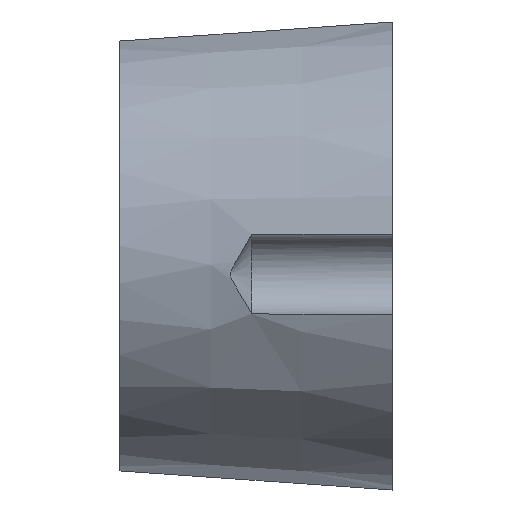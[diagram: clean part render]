
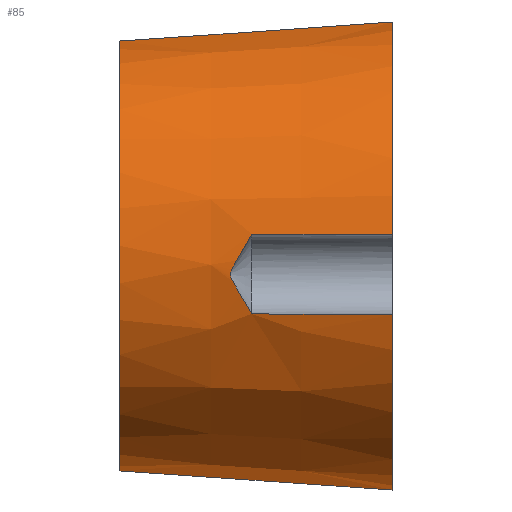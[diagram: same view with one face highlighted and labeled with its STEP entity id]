
A CAD part, top view. The second image highlights one B-rep face of the part: STEP entity #85.
In plain terms, the highlighted conical face has half-angle 4 degrees and reference radius 17.641 mm.
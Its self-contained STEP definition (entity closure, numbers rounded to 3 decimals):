
#85 = ADVANCED_FACE( '', ( #112 ), #113, .T. );
#112 = FACE_OUTER_BOUND( '', #144, .T. );
#113 = CONICAL_SURFACE( '', #145, 17.641, 0.07 );
#144 = EDGE_LOOP( '', ( #244, #245, #246, #247, #248, #249, #250, #251 ) );
#145 = AXIS2_PLACEMENT_3D( '', #252, #253, #254 );
#244 = ORIENTED_EDGE( '', *, *, #327, .F. );
#245 = ORIENTED_EDGE( '', *, *, #314, .F. );
#246 = ORIENTED_EDGE( '', *, *, #290, .F. );
#247 = ORIENTED_EDGE( '', *, *, #322, .T. );
#248 = ORIENTED_EDGE( '', *, *, #297, .T. );
#249 = ORIENTED_EDGE( '', *, *, #316, .F. );
#250 = ORIENTED_EDGE( '', *, *, #328, .F. );
#251 = ORIENTED_EDGE( '', *, *, #288, .F. );
#252 = CARTESIAN_POINT( '', ( -22.3, 0., 0. ) );
#253 = DIRECTION( '', ( 1., 0., 0. ) );
#254 = DIRECTION( '', ( 0., 0., -1. ) );
#288 = EDGE_CURVE( '', #330, #331, #332, .T. );
#290 = EDGE_CURVE( '', #334, #335, #336, .T. );
#297 = EDGE_CURVE( '', #343, #347, #349, .T. );
#314 = EDGE_CURVE( '', #335, #379, #380, .T. );
#316 = EDGE_CURVE( '', #381, #347, #383, .T. );
#322 = EDGE_CURVE( '', #334, #343, #390, .T. );
#327 = EDGE_CURVE( '', #379, #330, #397, .T. );
#328 = EDGE_CURVE( '', #331, #381, #398, .T. );
#330 = VERTEX_POINT( '', #400 );
#331 = VERTEX_POINT( '', #401 );
#332 = B_SPLINE_CURVE_WITH_KNOTS( '', 3, ( #402, #403, #404, #405, #406, #407, #408, #409, #410, #411, #412, #413, #414, #415, #416, #417, #418, #419, #420, #421, #422, #423 ), .UNSPECIFIED., .F., .F., ( 4, 2, 2, 2, 2, 2, 2, 2, 2, 2, 4 ), ( 0., 0.002, 0.003, 0.003, 0.004, 0.004, 0.004, 0.004, 0.005, 0.006, 0.007 ), .UNSPECIFIED. );
#334 = VERTEX_POINT( '', #425 );
#335 = VERTEX_POINT( '', #426 );
#336 = B_SPLINE_CURVE_WITH_KNOTS( '', 3, ( #427, #428, #429, #430, #431, #432 ), .UNSPECIFIED., .F., .F., ( 4, 2, 4 ), ( 0., 0.011, 0.022 ), .UNSPECIFIED. );
#343 = VERTEX_POINT( '', #444 );
#347 = VERTEX_POINT( '', #450 );
#349 = B_SPLINE_CURVE_WITH_KNOTS( '', 3, ( #453, #454, #455, #456, #457, #458, #459 ), .UNSPECIFIED., .F., .F., ( 4, 3, 4 ), ( 0.031, 0.033, 0.053 ), .UNSPECIFIED. );
#379 = VERTEX_POINT( '', #500 );
#380 = CIRCLE( '', #501, 19.2 );
#381 = VERTEX_POINT( '', #502 );
#383 = CIRCLE( '', #504, 19.2 );
#390 = CIRCLE( '', #513, 17.641 );
#397 = B_SPLINE_CURVE_WITH_KNOTS( '', 3, ( #553, #554, #555, #556 ), .UNSPECIFIED., .F., .F., ( 4, 4 ), ( 0., 0.012 ), .UNSPECIFIED. );
#398 = B_SPLINE_CURVE_WITH_KNOTS( '', 3, ( #557, #558, #559, #560 ), .UNSPECIFIED., .F., .F., ( 4, 4 ), ( 0., 0.012 ), .UNSPECIFIED. );
#400 = CARTESIAN_POINT( '', ( -11.5, 1.688, 18.318 ) );
#401 = CARTESIAN_POINT( '', ( -11.5, -4.832, 17.75 ) );
#402 = CARTESIAN_POINT( '', ( -11.5, 1.688, 18.318 ) );
#403 = CARTESIAN_POINT( '', ( -11.812, 1.148, 18.346 ) );
#404 = CARTESIAN_POINT( '', ( -12.124, 0.608, 18.35 ) );
#405 = CARTESIAN_POINT( '', ( -12.59, -0.203, 18.321 ) );
#406 = CARTESIAN_POINT( '', ( -12.745, -0.473, 18.305 ) );
#407 = CARTESIAN_POINT( '', ( -12.972, -0.881, 18.272 ) );
#408 = CARTESIAN_POINT( '', ( -13.047, -1.017, 18.26 ) );
#409 = CARTESIAN_POINT( '', ( -13.151, -1.226, 18.239 ) );
#410 = CARTESIAN_POINT( '', ( -13.184, -1.296, 18.232 ) );
#411 = CARTESIAN_POINT( '', ( -13.238, -1.442, 18.217 ) );
#412 = CARTESIAN_POINT( '', ( -13.258, -1.518, 18.21 ) );
#413 = CARTESIAN_POINT( '', ( -13.255, -1.674, 18.196 ) );
#414 = CARTESIAN_POINT( '', ( -13.233, -1.749, 18.191 ) );
#415 = CARTESIAN_POINT( '', ( -13.177, -1.894, 18.18 ) );
#416 = CARTESIAN_POINT( '', ( -13.143, -1.964, 18.175 ) );
#417 = CARTESIAN_POINT( '', ( -13.039, -2.172, 18.159 ) );
#418 = CARTESIAN_POINT( '', ( -12.964, -2.307, 18.148 ) );
#419 = CARTESIAN_POINT( '', ( -12.738, -2.712, 18.109 ) );
#420 = CARTESIAN_POINT( '', ( -12.584, -2.98, 18.078 ) );
#421 = CARTESIAN_POINT( '', ( -12.121, -3.779, 17.967 ) );
#422 = CARTESIAN_POINT( '', ( -11.811, -4.307, 17.87 ) );
#423 = CARTESIAN_POINT( '', ( -11.5, -4.832, 17.75 ) );
#425 = CARTESIAN_POINT( '', ( -22.3, 17.483, 2.355 ) );
#426 = CARTESIAN_POINT( '', ( 0., 19.039, 2.483 ) );
#427 = CARTESIAN_POINT( '', ( -22.3, 17.483, 2.355 ) );
#428 = CARTESIAN_POINT( '', ( -18.583, 17.731, 2.458 ) );
#429 = CARTESIAN_POINT( '', ( -14.866, 17.985, 2.519 ) );
#430 = CARTESIAN_POINT( '', ( -7.432, 18.504, 2.563 ) );
#431 = CARTESIAN_POINT( '', ( -3.716, 18.768, 2.546 ) );
#432 = CARTESIAN_POINT( '', ( 0., 19.039, 2.483 ) );
#444 = CARTESIAN_POINT( '', ( -22.3, -17.625, 0.75 ) );
#450 = CARTESIAN_POINT( '', ( 0., -19.185, 0.75 ) );
#453 = CARTESIAN_POINT( '', ( -22.3, -17.625, 0.75 ) );
#454 = CARTESIAN_POINT( '', ( -21.395, -17.688, 0.75 ) );
#455 = CARTESIAN_POINT( '', ( -20.489, -17.751, 0.75 ) );
#456 = CARTESIAN_POINT( '', ( -19.584, -17.815, 0.75 ) );
#457 = CARTESIAN_POINT( '', ( -13.056, -18.272, 0.75 ) );
#458 = CARTESIAN_POINT( '', ( -6.528, -18.729, 0.75 ) );
#459 = CARTESIAN_POINT( '', ( 0., -19.185, 0.75 ) );
#500 = CARTESIAN_POINT( '', ( 0., 1.622, 19.131 ) );
#501 = AXIS2_PLACEMENT_3D( '', #600, #601, #602 );
#502 = CARTESIAN_POINT( '', ( 0., -4.907, 18.562 ) );
#504 = AXIS2_PLACEMENT_3D( '', #606, #607, #608 );
#513 = AXIS2_PLACEMENT_3D( '', #620, #621, #622 );
#553 = CARTESIAN_POINT( '', ( 0., 1.622, 19.131 ) );
#554 = CARTESIAN_POINT( '', ( -3.833, 1.679, 18.858 ) );
#555 = CARTESIAN_POINT( '', ( -7.666, 1.7, 18.586 ) );
#556 = CARTESIAN_POINT( '', ( -11.5, 1.688, 18.318 ) );
#557 = CARTESIAN_POINT( '', ( -11.5, -4.832, 17.75 ) );
#558 = CARTESIAN_POINT( '', ( -7.666, -4.889, 18.012 ) );
#559 = CARTESIAN_POINT( '', ( -3.833, -4.916, 18.283 ) );
#560 = CARTESIAN_POINT( '', ( 0., -4.907, 18.562 ) );
#600 = CARTESIAN_POINT( '', ( 0., 0., 0. ) );
#601 = DIRECTION( '', ( 1., 0., 0. ) );
#602 = DIRECTION( '', ( 0., 0., -1. ) );
#606 = CARTESIAN_POINT( '', ( 0., 0., 0. ) );
#607 = DIRECTION( '', ( 1., 0., 0. ) );
#608 = DIRECTION( '', ( 0., 0., -1. ) );
#620 = CARTESIAN_POINT( '', ( -22.3, 0., 0. ) );
#621 = DIRECTION( '', ( 1., 0., 0. ) );
#622 = DIRECTION( '', ( 0., 0., -1. ) );
